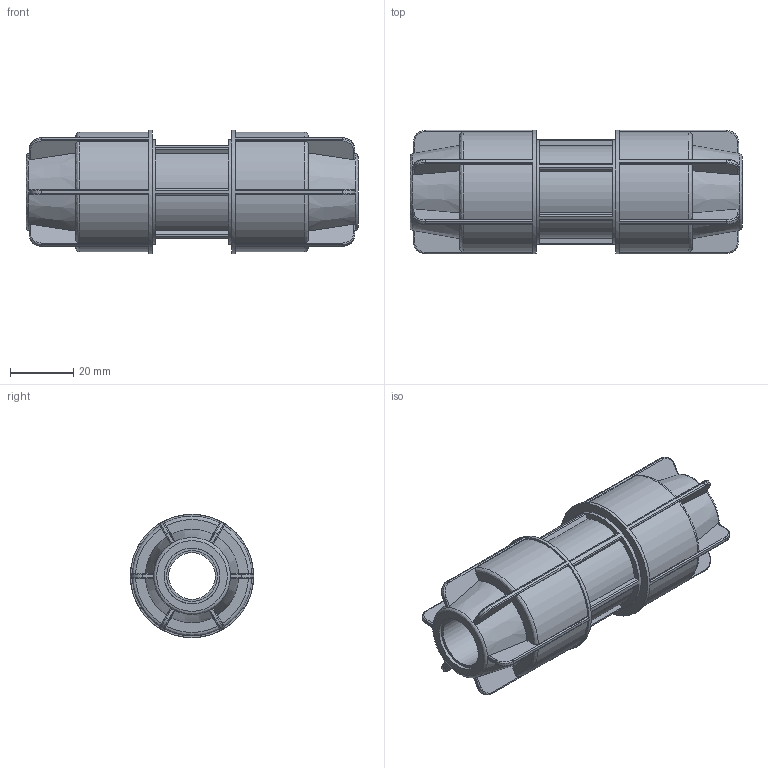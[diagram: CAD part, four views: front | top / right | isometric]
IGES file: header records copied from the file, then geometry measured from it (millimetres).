
Global section: file name: 140100016.ipt; native system: Autodesk Inventor 2015; preprocessor: unknown; author: KIM; date: 20180612.155246; units: millimetre
Bounding box: 105 x 39 x 39 mm (x, y, z)
Volume: 70839.9 mm3; surface area: 21215.8 mm2
Topology: 1 solids, 1 shells, 230 faces, 609 edges, 392 vertices
Faces by surface type: plane 92, cylinder 81, revolution 31, bspline 24, cone 2
Full cylindrical faces by diameter (mm): 33.15 x1, 39 x2
